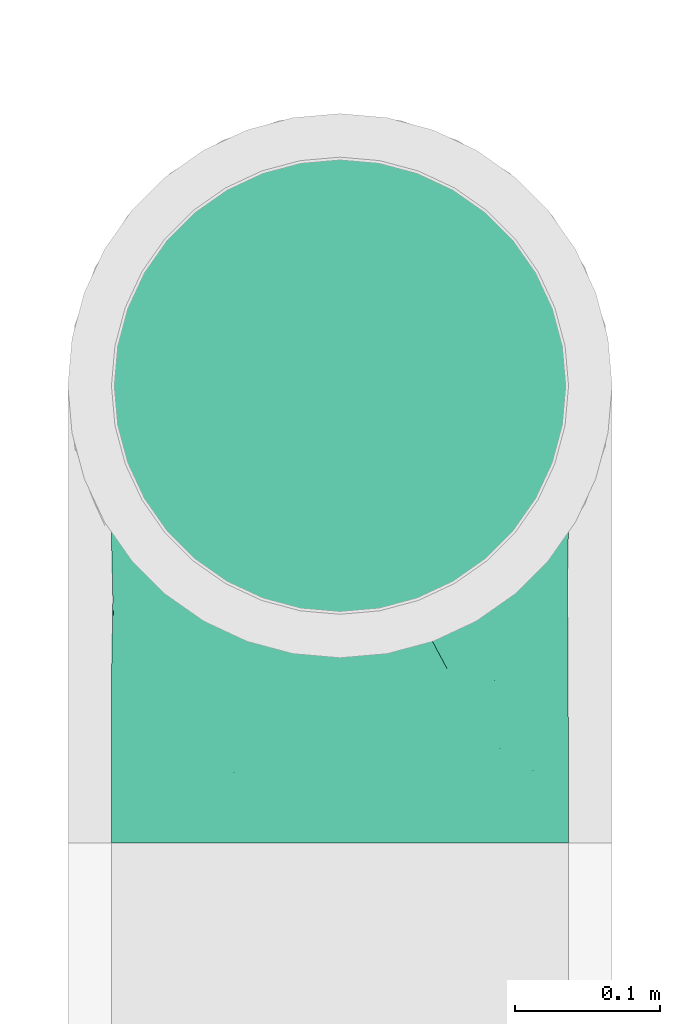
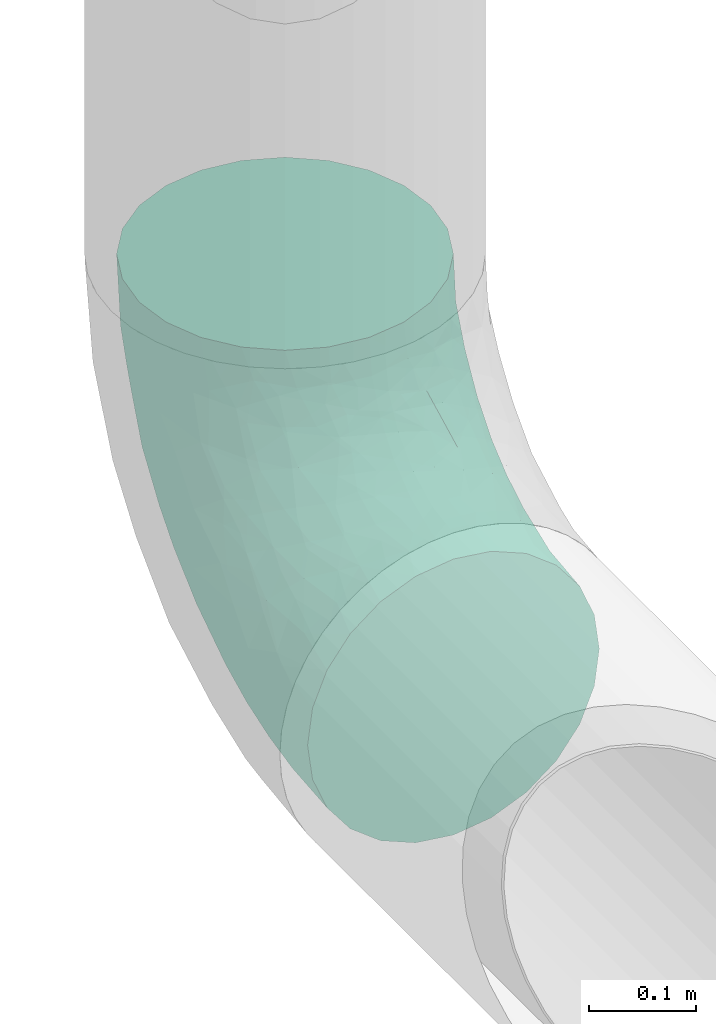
# One storey, part 16 of 21: 1 flow fitting.
"""IFC2X3 building model written with IfcOpenShell, lengths in millimetres."""

from ifc_helpers import new_model, entity, si_unit, converted_unit, derived_unit, direction, frame, origin_with_axes, place, context, subcontext, project, spatial, open_shell, surface_model, source, transform, mapped, type_object, element, save


model = new_model("IFC2X3")

# Units and contexts
model_context = context("Model", 3, precision=0.01, world=frame((0.0, 4.29681676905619e-09, 0.0)), true_north=direction((4.01073788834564e-13, 1.0)))
plan_context = context("Plan", 3, precision=0.01, world=frame((0.0, 4.29681676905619e-09, 0.0)), true_north=direction((4.01073788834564e-13, 1.0)))
body_context = subcontext(model_context, "Body", "Model", "MODEL_VIEW")
ifc_project = project(units=[converted_unit("PLANEANGLEUNIT", "DEGREE", entity("IfcPositiveLengthMeasure", 0.0174532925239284), si_unit("PLANEANGLEUNIT", "RADIAN"), dimensions=[0, 0, 0, 0, 0, 0, 0]), si_unit("AREAUNIT", "SQUARE_METRE"), si_unit("LENGTHUNIT", "METRE", prefix="MILLI"), si_unit("MASSUNIT", "GRAM", prefix="KILO"), si_unit("POWERUNIT", "WATT"), si_unit("PRESSUREUNIT", "PASCAL"), si_unit("FORCEUNIT", "NEWTON", prefix="KILO"), si_unit("ELECTRICVOLTAGEUNIT", "VOLT"), si_unit("ELECTRICCURRENTUNIT", "AMPERE"), si_unit("THERMODYNAMICTEMPERATUREUNIT", "DEGREE_CELSIUS"), si_unit("TIMEUNIT", "SECOND"), si_unit("VOLUMEUNIT", "CUBIC_METRE"), derived_unit("LINEARVELOCITYUNIT", [(si_unit("LENGTHUNIT", "METRE"), 1), (si_unit("TIMEUNIT", "SECOND"), -1)]), derived_unit("VOLUMETRICFLOWRATEUNIT", [(si_unit("VOLUMEUNIT", "CUBIC_METRE"), 1), (si_unit("TIMEUNIT", "SECOND"), -1)]), derived_unit("THERMALTRANSMITTANCEUNIT", [(si_unit("POWERUNIT", "WATT"), 1), (si_unit("THERMODYNAMICTEMPERATUREUNIT", "KELVIN"), -1), (si_unit("AREAUNIT", "SQUARE_METRE"), -1)]), derived_unit("SOUNDPRESSUREUNIT", [(si_unit("PRESSUREUNIT", "PASCAL"), 1)])], contexts=[model_context, plan_context])

# Site, building, storey
site_placement = place(None, frame((0.0, -4.29681676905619e-09, 0.0), z_axis=(0.0, 0.0, 1.0), x_axis=(1.0, 0.0, 0.0)))
site = spatial("IfcSite", under=ifc_project, at=site_placement, Name="ENGM", CompositionType="ELEMENT")
building_placement = place(site_placement, frame((0.0, 4.29681676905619e-09, 0.0), z_axis=(0.0, 0.0, 1.0), x_axis=(1.0, 0.0, 0.0)))
building = spatial("IfcBuilding", under=site, at=building_placement, Name="TI", CompositionType="ELEMENT")
storey_placement = place(building_placement, frame((0.0, 0.0, 210900.0), z_axis=(0.0, 0.0, 1.0), x_axis=(1.0, 0.0, 0.0)))
storey = spatial("IfcBuildingStorey", under=building, at=storey_placement, Name="Nivå F", CompositionType="ELEMENT", Elevation=210900.0)

# Flow fitting
duct_fitting_type = type_object("IfcDuctFittingType", Name="magicirc_elbow_full_radius_001", PredefinedType="BEND")
shared_shape = source(origin_with_axes(), body_context, "Body", "SurfaceModel", [
    surface_model("IfcShellBasedSurfaceModel", [(-315.0, 78.75, -136.39901), (-315.0, 40.764, -152.13332), (-315.0, 0.0, -157.5), (-315.0, 136.39901, -78.75), (-315.0, -40.764, -152.13332), (-315.0, 111.36932, -111.36932), (-315.0, -157.5, 0.0), (-315.0, -152.13332, 40.764), (-315.0, -111.36932, -111.36932), (-315.0, -152.13332, -40.764), (-315.0, -78.75, -136.39901), (-315.0, -136.39901, -78.75), (-315.0, 152.13332, -40.764), (-315.0, 152.13332, 40.764), (-315.0, 157.5, 0.0), (-315.0, 111.36932, 111.36932), (-315.0, 136.39901, 78.75), (-315.0, 78.75, 136.39901), (-315.0, 40.764, 152.13332), (-315.0, -111.36932, 111.36932), (-315.0, -78.75, 136.39901), (-315.0, -136.39901, 78.75), (-315.0, 0.0, 157.5), (-315.0, -40.764, 152.13332), (0.0, 315.0, -157.5), (-40.764, 315.0, -152.13332), (-78.75, 315.0, -136.39901), (-136.39901, 315.0, -78.75), (40.764, 315.0, -152.13332), (-111.36932, 315.0, -111.36932), (152.13332, 315.0, 40.764), (157.5, 315.0, 0.0), (78.75, 315.0, -136.39901), (152.13332, 315.0, -40.764), (111.36932, 315.0, -111.36932), (136.39901, 315.0, -78.75), (-152.13332, 315.0, -40.764), (-157.5, 315.0, 0.0), (-152.13332, 315.0, 40.764), (-111.36932, 315.0, 111.36932), (-136.39901, 315.0, 78.75), (-78.75, 315.0, 136.39901), (-40.764, 315.0, 152.13332), (136.39901, 315.0, 78.75), (78.75, 315.0, 136.39901), (111.36932, 315.0, 111.36932), (0.0, 315.0, 157.5), (40.764, 315.0, 152.13332), (-275.78673, -154.41385, 0.0), (-241.08472, -151.68274, 0.0), (-252.44974, -146.30358, 46.35165), (-187.41523, 212.23477, 44.18498), (-179.01149, 203.81739, 73.41005), (-160.11821, 234.12054, 71.62405), (-259.10789, -29.29167, 153.83069), (-244.91752, 10.986, 157.47118), (-224.67128, -127.46551, 78.41541), (-275.62484, -128.51884, 88.53098), (-239.58521, -68.78712, 137.8804), (-254.44946, -102.17277, 115.99392), (-204.97493, -89.72227, 117.91769), (-198.20454, -136.55993, 43.33884), (-148.94098, -119.38248, 47.89313), (-158.86886, -110.344, 75.73779), (39.78686, 15.52969, 50.216), (50.02524, 48.95167, 78.24133), (16.56876, 9.92294, 80.17525), (-156.73954, -92.78717, 99.09316), (-102.51279, -78.92253, 85.02595), (-126.30713, -72.38133, 106.65328), (-238.05749, 163.98734, 60.26168), (-237.20027, 147.2055, 88.84905), (-203.90523, 171.05831, 84.0913), (-99.39676, -101.96273, 31.06146), (-68.88048, -86.63056, 0.0), (-64.76022, -82.94549, 27.4714), (-194.76506, -28.32949, 149.7576), (24.59365, -9.6905, 28.83462), (43.18424, 9.08176, 0.0), (-28.15076, 147.0542, 156.53616), (-57.62232, 187.52251, 155.03024), (-72.61201, 106.84341, 157.43567), (-100.48949, -106.00058, 0.0), (-134.73948, -120.1874, 0.0), (-260.04347, 89.83524, 133.7152), (-237.26991, 125.02171, 112.97999), (-280.21215, 121.62894, 103.72153), (68.21928, 256.1901, 139.71452), (77.7719, 189.04071, 123.71299), (102.31809, 243.42041, 114.24978), (67.84442, 49.60938, 45.33346), (67.26053, 37.27147, 0.0), (90.55316, 77.99056, 29.40563), (-274.83669, 157.26153, 40.40661), (-274.67132, 145.30132, 71.02739), (-245.58363, 170.09727, 31.44943), (-158.01119, 282.57516, 29.57871), (-146.25125, 266.67126, 73.17914), (-201.21156, 99.95025, 140.23251), (-168.00076, 243.85557, 42.38557), (-236.25001, 178.601, 0.0), (-214.36106, 188.34463, 36.42869), (-203.63068, 203.63068, 0.0), (-162.86668, 274.236, 0.0), (-27.4795, -1.48331, 110.13927), (-51.96296, -33.03019, 100.52286), (-24.99652, -31.32094, 78.21218), (112.08788, 138.61937, 56.34637), (125.1619, 203.64453, 74.00759), (104.09929, 190.16434, 99.24634), (-263.88667, 52.46181, 150.1563), (6.28024, -18.02273, 54.59081), (-32.47692, -55.63747, 44.65165), (-205.03709, -143.02847, 0.0), (-151.50955, 215.6642, 97.49478), (-169.72394, 180.80582, 105.18325), (-137.80003, 192.65821, 121.95203), (-131.16131, 105.91152, 153.19188), (-137.52005, 135.51481, 144.53218), (-172.83727, 124.27225, 137.32768), (128.84491, 263.57392, 86.20478), (114.57644, 123.92915, 27.08781), (106.00058, 100.48949, 0.0), (131.75884, 176.48085, 38.42713), (143.02847, 205.03709, 0.0), (146.29642, 252.33829, 46.32598), (28.40156, 269.10441, 154.32704), (154.41385, 275.78673, 0.0), (-22.22564, 41.69116, 132.2609), (16.69324, 39.94323, 106.64404), (16.31975, 90.96952, 132.6244), (-52.03205, 254.37949, 150.89421), (153.88948, 315.0, 27.4246), (53.20704, 125.91085, 122.5592), (88.92651, 138.61761, 94.82216), (-274.236, 162.86668, 0.0), (-178.601, 236.25001, 0.0), (-168.81595, 14.50737, 156.32976), (-134.58592, -17.78306, 144.11351), (-96.06327, 24.61756, 149.79173), (-95.47965, 208.90923, 140.49399), (-78.67054, 72.23496, 155.69115), (-107.10628, 82.90122, 157.46314), (-89.91469, 266.26589, 132.78659), (-121.60296, 277.73788, 104.26598), (-11.78088, 260.70674, 157.34621), (-227.60537, 69.76326, 147.71238), (-195.7657, -66.84676, 132.57527), (-17.98791, 203.53807, 157.4841), (-60.53883, -60.45246, 74.88575), (-91.07399, -51.75682, 107.92189), (-197.57809, -110.08585, 94.49261), (-125.81015, 232.97235, 113.88738), (64.56465, 93.01368, 96.19249), (16.83328, 142.0015, 145.94195), (-22.72801, 90.93072, 148.21445), (-99.35511, 153.79, 150.7066), (57.69895, 213.45149, 140.44432), (29.76385, 212.9342, 151.06665), (41.25613, 174.00975, 141.99688), (81.24399, 84.86245, 65.51403), (-80.6457, -84.21175, 54.10058), (-119.42936, -101.75196, 60.63924), (-223.54613, 37.74243, 155.80439), (-168.22432, 88.17595, 150.9854), (-187.52253, 57.62232, 155.03024), (-196.7276, 148.24729, 112.17066), (-145.12836, 64.74974, 156.99994), (-62.1104, 49.45871, 148.77454), (-78.29466, 3.48913, 137.81789), (120.1874, 134.73948, 0.0), (134.3742, 168.98947, 0.0), (-124.07067, 168.52736, 138.84177), (0.02902, 171.95264, 154.42202), (-155.24181, 155.24181, 129.8968), (-73.90672, -22.7783, 121.68574), (-153.67663, -57.07317, 128.87412), (-113.78636, -39.32142, 127.49832), (-115.01886, 47.08507, 156.31037), (86.63056, 68.88048, 0.0), (-9.08176, -43.18424, 0.0), (19.10795, -19.10795, 0.0), (-168.98947, -134.3742, 0.0), (-37.27147, -67.26053, 0.0), (-315.0, -153.88948, 27.4246), (151.68274, 241.08472, 0.0), (-255.73532, 122.56558, -109.04479), (-214.29406, 93.80227, -140.10177), (-163.84149, 105.49727, -146.95596), (-183.82971, 59.98852, -154.94923), (-192.31906, 130.25635, -126.94074), (-214.67055, 186.05827, -42.62213), (-186.74496, 194.75879, -73.69482), (-239.00567, 164.73426, -57.54591), (84.53784, 80.13877, -52.6065), (-261.00954, 11.80363, -157.34285), (-250.44216, -29.83398, -153.37151), (-268.19836, 89.9699, -132.49512), (18.83806, 119.2151, -140.07242), (49.91254, 115.17721, -120.81771), (12.06978, 71.6341, -127.34592), (-248.07962, 169.80005, -27.2725), (-275.80747, 156.39383, -42.62213), (-196.40633, -137.77993, -37.15996), (-145.81166, -120.76195, -39.54807), (29.83399, 250.44214, -153.37151), (-188.19275, 214.15275, -37.45863), (-263.66616, 144.09279, -78.48806), (-189.95567, 165.06391, -102.28747), (43.89547, 65.88084, -99.75423), (78.16417, 108.21393, -90.03536), (-249.49402, 51.93128, -151.25871), (-315.0, -153.88948, -27.4246), (-247.57479, -102.2991, -114.91111), (-172.13573, -94.4716, -103.54526), (-203.64451, -125.1619, -74.00758), (-15.43872, -39.86246, -49.86848), (-49.56463, -70.60072, -36.85181), (-48.59952, -58.5205, -64.27403), (-252.33829, -146.29642, -46.32598), (-150.4225, 203.44707, -106.34238), (-263.57392, -128.84491, -86.20478), (-270.63117, -67.13499, -141.2369), (-215.39001, -68.32685, -135.04042), (102.2991, 247.57479, -114.91111), (-84.30908, -81.65653, -64.10818), (-91.06615, -97.14589, -32.77134), (94.4716, 172.13573, -103.54526), (68.32685, 215.39, -135.04042), (-163.2898, 237.20307, -62.64493), (-225.79476, 144.1207, -99.31867), (-157.79862, 273.70924, -39.50029), (-170.19986, 243.41794, -35.38905), (128.35851, 166.25059, -38.79853), (111.33052, 119.84284, -33.59532), (107.99483, 139.73378, -66.29524), (-159.64305, 170.07843, -119.54587), (-180.81821, -30.01596, -147.51371), (-145.25442, 275.15448, -70.89775), (-89.88491, 264.92544, -132.9879), (-44.17449, 280.59439, -151.79735), (-59.757, 315.0, -144.26616), (9.31111, -25.05617, -28.4426), (53.009, 25.90805, -37.46377), (-11.80362, 261.00954, -157.34285), (67.13499, 270.63117, -141.2369), (-92.6263, 92.62629, -157.49916), (-118.96141, 121.25661, -152.49801), (-64.39537, 156.51032, -156.4116), (-60.182, 62.8574, -151.37938), (-107.20835, 12.13665, -148.56572), (-115.08393, 49.61455, -156.55155), (128.84491, 263.57392, -86.20478), (142.02096, 205.05236, -27.6146), (29.81946, 180.40381, -147.52592), (-13.4149, 195.22557, -157.2133), (146.29642, 252.33829, -46.32598), (-37.40914, -4.7821, -114.20577), (-6.41858, -12.60422, -81.0379), (-50.98723, -38.43118, -94.2951), (-120.93204, -103.51151, -58.28641), (-96.41026, 201.21637, -141.79045), (-123.09172, 250.65074, -110.13461), (-121.89335, 288.06679, -101.98259), (-63.35086, 202.24527, -152.53228), (-222.08454, -6.89853, -156.21984), (125.1619, 203.64451, -74.00758), (-51.91054, 246.85668, -151.45138), (-161.36987, -115.89647, -67.15691), (61.05333, 59.83208, -73.20753), (-114.28437, -21.13487, -137.6727), (-72.08976, 0.21966, -134.09767), (2.17272, 150.10188, -151.66391), (-117.40709, -78.70988, -95.14777), (15.79609, -8.49924, -54.72897), (67.75002, 163.86592, -124.46846), (-163.86592, -67.75002, -124.46846), (-128.02491, 185.93738, -130.75264), (-108.32235, 160.67293, -146.80015), (-225.72616, 27.09586, -156.91411), (-54.59519, 105.68211, -156.33724), (-32.5663, 145.08674, -156.82141), (-145.37889, -8.42453, -149.28396), (-136.98265, 81.1657, -156.07826), (-156.31197, 39.80053, -157.47731), (-31.52679, 31.52678, -132.01846), (-143.53867, 148.20903, -138.06198), (-187.31767, 14.48755, -157.07868), (-19.17494, 108.97533, -150.78529), (2.87334, 23.19904, -105.99183), (32.99767, 23.1947, -73.77925), (-74.47057, -30.27504, -116.67674), (-115.17722, -49.91255, -120.81771), (153.88948, 315.0, -27.4246)], [open_shell([[[0, 1, 2]], [[3, 0, 2]], [[4, 3, 2]], [[5, 0, 3]], [[3, 6, 7]], [[8, 9, 10]], [[4, 10, 6]], [[11, 9, 8]], [[6, 10, 9]], [[6, 3, 4]], [[7, 12, 3]], [[13, 14, 15]], [[16, 13, 15]], [[17, 15, 7]], [[7, 15, 14]], [[17, 7, 18]], [[19, 20, 21]], [[7, 21, 22]], [[23, 22, 20]], [[21, 20, 22]], [[22, 18, 7]], [[12, 7, 14]], [[24, 25, 26]], [[24, 26, 27]], [[24, 27, 28]], [[27, 26, 29]], [[30, 31, 27]], [[32, 33, 34]], [[31, 32, 28]], [[34, 33, 35]], [[33, 32, 31]], [[28, 27, 31]], [[27, 36, 37]], [[27, 38, 39]], [[39, 38, 40]], [[30, 39, 41]], [[39, 30, 27]], [[41, 42, 30]], [[43, 44, 45]], [[46, 43, 30]], [[44, 46, 47]], [[46, 44, 43]], [[30, 42, 46]], [[38, 27, 37]], [[48, 49, 50]], [[51, 52, 53]], [[22, 54, 55]], [[56, 57, 50]], [[58, 59, 60]], [[23, 20, 58]], [[61, 62, 63]], [[64, 65, 66]], [[67, 68, 69]], [[70, 71, 72]], [[20, 59, 58]], [[73, 74, 75]], [[76, 54, 58]], [[64, 77, 78]], [[79, 80, 81]], [[50, 61, 56]], [[82, 73, 83]], [[84, 85, 86]], [[87, 88, 89]], [[22, 55, 18]], [[90, 91, 92]], [[93, 94, 70]], [[70, 95, 93]], [[96, 97, 38]], [[85, 84, 98]], [[99, 51, 53]], [[71, 70, 94]], [[100, 101, 102]], [[96, 103, 99]], [[14, 13, 93]], [[94, 93, 13]], [[64, 90, 65]], [[104, 105, 106]], [[107, 108, 109]], [[17, 110, 84]], [[111, 106, 112]], [[113, 50, 49]], [[20, 19, 59]], [[114, 115, 116]], [[117, 118, 119]], [[89, 44, 87]], [[19, 21, 57]], [[120, 89, 108]], [[121, 92, 122]], [[123, 124, 125]], [[46, 126, 47]], [[125, 127, 30]], [[16, 15, 86]], [[128, 129, 130]], [[120, 43, 45]], [[43, 125, 30]], [[123, 108, 107]], [[42, 41, 131]], [[127, 31, 132]], [[133, 134, 88]], [[93, 95, 135]], [[21, 7, 50]], [[99, 103, 136]], [[137, 138, 139]], [[102, 101, 51]], [[103, 96, 37]], [[140, 80, 131]], [[72, 101, 70]], [[51, 136, 102]], [[141, 81, 142]], [[131, 143, 140]], [[38, 97, 40]], [[39, 40, 144]], [[89, 45, 44]], [[145, 42, 131]], [[16, 94, 13]], [[41, 143, 131]], [[145, 46, 42]], [[15, 17, 84]], [[137, 55, 76]], [[23, 54, 22]], [[146, 84, 110]], [[58, 60, 147]], [[44, 47, 87]], [[88, 134, 109]], [[41, 39, 143]], [[80, 79, 148]], [[149, 150, 68]], [[67, 151, 63]], [[17, 18, 110]], [[84, 146, 98]], [[120, 125, 43]], [[125, 108, 123]], [[50, 7, 48]], [[50, 113, 61]], [[53, 52, 114]], [[144, 97, 152]], [[153, 129, 65]], [[111, 64, 66]], [[57, 59, 19]], [[60, 151, 67]], [[130, 133, 154]], [[129, 128, 104]], [[155, 154, 79]], [[156, 81, 80]], [[126, 87, 47]], [[157, 158, 159]], [[157, 88, 87]], [[160, 153, 65]], [[58, 54, 23]], [[55, 54, 76]], [[161, 162, 73]], [[162, 67, 63]], [[144, 143, 39]], [[143, 152, 140]], [[148, 131, 80]], [[126, 145, 158]], [[18, 55, 110]], [[163, 110, 55]], [[164, 98, 165]], [[98, 119, 166]], [[167, 117, 164]], [[140, 156, 80]], [[138, 137, 76]], [[168, 169, 128]], [[107, 134, 160]], [[89, 109, 108]], [[121, 123, 107]], [[170, 171, 123]], [[89, 120, 45]], [[125, 120, 108]], [[86, 94, 16]], [[94, 86, 71]], [[145, 126, 46]], [[126, 158, 157]], [[116, 140, 152]], [[118, 156, 172]], [[140, 116, 172]], [[81, 156, 117]], [[117, 167, 142]], [[81, 155, 79]], [[155, 130, 154]], [[148, 158, 145]], [[159, 88, 157]], [[173, 158, 148]], [[148, 79, 173]], [[131, 148, 145]], [[95, 70, 101]], [[14, 93, 135]], [[101, 100, 95]], [[135, 95, 100]], [[97, 144, 40]], [[143, 144, 152]], [[166, 71, 85]], [[71, 166, 72]], [[98, 166, 85]], [[166, 115, 72]], [[115, 166, 174]], [[101, 72, 52]], [[116, 115, 174]], [[52, 72, 115]], [[116, 174, 172]], [[114, 116, 152]], [[97, 114, 152]], [[52, 115, 114]], [[118, 172, 174]], [[140, 172, 156]], [[119, 118, 174]], [[156, 118, 117]], [[166, 119, 174]], [[119, 98, 164]], [[128, 130, 155]], [[153, 130, 129]], [[168, 128, 155]], [[104, 106, 66]], [[128, 169, 104]], [[162, 68, 67]], [[175, 150, 105]], [[176, 138, 76]], [[141, 155, 81]], [[139, 169, 168]], [[176, 69, 177]], [[147, 76, 58]], [[177, 150, 175]], [[138, 169, 139]], [[167, 137, 178]], [[137, 165, 163]], [[121, 122, 170]], [[126, 157, 87]], [[92, 121, 107]], [[123, 121, 170]], [[92, 107, 160]], [[90, 92, 160]], [[92, 91, 179]], [[65, 90, 160]], [[114, 97, 53]], [[160, 134, 153]], [[66, 65, 129]], [[134, 133, 153]], [[153, 133, 130]], [[104, 66, 129]], [[111, 66, 106]], [[149, 112, 106]], [[77, 64, 111]], [[161, 73, 75]], [[180, 181, 77]], [[77, 111, 112]], [[91, 90, 78]], [[77, 181, 78]], [[90, 64, 78]], [[97, 99, 53]], [[84, 86, 15]], [[86, 85, 71]], [[62, 61, 182]], [[151, 59, 56]], [[176, 60, 67]], [[59, 151, 60]], [[56, 61, 63]], [[56, 63, 151]], [[162, 63, 62]], [[62, 182, 83]], [[162, 161, 68]], [[149, 68, 161]], [[68, 150, 69]], [[62, 73, 162]], [[73, 82, 74]], [[183, 112, 75]], [[112, 149, 161]], [[149, 106, 105]], [[183, 75, 74]], [[112, 161, 75]], [[177, 69, 150]], [[176, 67, 69]], [[60, 176, 147]], [[76, 147, 176]], [[7, 184, 48]], [[184, 6, 48]], [[127, 125, 185]], [[127, 132, 30]], [[97, 96, 99]], [[37, 96, 38]], [[50, 57, 21]], [[59, 57, 56]], [[136, 51, 99]], [[101, 52, 51]], [[124, 123, 171]], [[124, 185, 125]], [[158, 173, 159]], [[154, 133, 159]], [[88, 159, 133]], [[83, 73, 62]], [[137, 163, 55]], [[146, 163, 165]], [[163, 146, 110]], [[98, 146, 165]], [[167, 164, 165]], [[119, 164, 117]], [[137, 167, 165]], [[167, 178, 142]], [[178, 139, 141]], [[117, 142, 81]], [[178, 141, 142]], [[155, 141, 168]], [[88, 109, 89]], [[107, 109, 134]], [[79, 154, 173]], [[173, 154, 159]], [[175, 104, 169]], [[149, 105, 150]], [[104, 175, 105]], [[177, 169, 138]], [[169, 177, 175]], [[138, 176, 177]], [[141, 139, 168]], [[139, 178, 137]], [[112, 180, 77]], [[179, 122, 92]], [[112, 183, 180]], [[113, 182, 61]], [[186, 5, 3]], [[187, 188, 189]], [[188, 187, 190]], [[191, 192, 193]], [[91, 194, 179]], [[2, 195, 196]], [[0, 5, 197]], [[198, 199, 200]], [[201, 202, 135]], [[182, 203, 204]], [[100, 201, 135]], [[28, 205, 24]], [[191, 102, 206]], [[12, 202, 207]], [[192, 208, 193]], [[209, 199, 210]], [[0, 211, 1]], [[197, 186, 187]], [[9, 48, 212]], [[213, 214, 215]], [[48, 6, 212]], [[216, 217, 218]], [[9, 11, 219]], [[192, 220, 208]], [[8, 221, 11]], [[191, 193, 201]], [[222, 196, 223]], [[10, 4, 222]], [[10, 222, 213]], [[113, 219, 203]], [[204, 82, 83]], [[32, 34, 224]], [[225, 217, 226]], [[8, 10, 213]], [[227, 228, 224]], [[229, 220, 192]], [[136, 206, 102]], [[186, 230, 190]], [[231, 229, 232]], [[233, 234, 235]], [[37, 36, 231]], [[208, 220, 236]], [[237, 223, 196]], [[238, 231, 36]], [[4, 2, 196]], [[239, 26, 240]], [[29, 26, 239]], [[232, 103, 231]], [[240, 241, 25]], [[78, 242, 243]], [[211, 0, 197]], [[24, 244, 25]], [[238, 36, 27]], [[24, 205, 244]], [[28, 245, 205]], [[180, 216, 242]], [[246, 247, 248]], [[14, 135, 202]], [[228, 245, 224]], [[234, 179, 194]], [[234, 194, 235]], [[249, 250, 251]], [[35, 252, 34]], [[28, 32, 245]], [[233, 253, 171]], [[205, 254, 255]], [[127, 185, 256]], [[33, 127, 256]], [[238, 229, 231]], [[230, 186, 207]], [[257, 258, 259]], [[35, 33, 256]], [[226, 260, 225]], [[218, 217, 225]], [[239, 261, 262]], [[263, 27, 29]], [[12, 207, 3]], [[264, 255, 248]], [[189, 211, 187]], [[265, 196, 195]], [[252, 224, 34]], [[227, 224, 266]], [[254, 205, 228]], [[244, 255, 267]], [[2, 1, 195]], [[196, 265, 237]], [[214, 213, 223]], [[221, 213, 215]], [[221, 219, 11]], [[268, 203, 215]], [[253, 185, 124]], [[252, 256, 266]], [[269, 210, 194]], [[227, 235, 210]], [[270, 250, 271]], [[198, 272, 254]], [[225, 273, 259]], [[274, 216, 258]], [[239, 267, 264]], [[263, 239, 262]], [[235, 227, 266]], [[275, 228, 227]], [[223, 276, 214]], [[214, 276, 273]], [[100, 102, 191]], [[202, 201, 193]], [[191, 201, 100]], [[191, 206, 192]], [[206, 229, 192]], [[229, 238, 220]], [[261, 277, 262]], [[277, 261, 278]], [[248, 247, 278]], [[190, 187, 186]], [[202, 193, 207]], [[14, 202, 12]], [[230, 193, 208]], [[3, 207, 186]], [[255, 244, 205]], [[26, 241, 240]], [[1, 211, 195]], [[279, 195, 211]], [[186, 197, 5]], [[211, 197, 187]], [[275, 254, 228]], [[199, 209, 200]], [[246, 249, 251]], [[280, 248, 281]], [[270, 282, 250]], [[237, 270, 276]], [[283, 251, 284]], [[285, 257, 271]], [[193, 230, 207]], [[230, 208, 190]], [[236, 190, 208]], [[188, 190, 286]], [[286, 247, 188]], [[284, 287, 189]], [[283, 188, 247]], [[189, 287, 279]], [[278, 247, 286]], [[283, 247, 246]], [[248, 278, 264]], [[255, 272, 281]], [[251, 283, 246]], [[189, 188, 283]], [[280, 249, 246]], [[250, 282, 284]], [[288, 285, 249]], [[249, 285, 271]], [[213, 221, 8]], [[219, 221, 215]], [[256, 252, 35]], [[224, 252, 266]], [[250, 249, 271]], [[285, 200, 289]], [[263, 238, 27]], [[220, 238, 262]], [[235, 266, 233]], [[210, 235, 194]], [[209, 269, 290]], [[210, 199, 275]], [[289, 209, 290]], [[209, 289, 200]], [[258, 289, 290]], [[257, 285, 289]], [[285, 288, 200]], [[198, 200, 288]], [[274, 258, 290]], [[218, 258, 216]], [[232, 229, 206]], [[37, 231, 103]], [[253, 266, 256]], [[233, 170, 234]], [[272, 198, 288]], [[275, 198, 254]], [[281, 272, 288]], [[255, 254, 272]], [[280, 281, 288]], [[255, 281, 248]], [[249, 280, 288]], [[248, 280, 246]], [[204, 268, 260]], [[74, 226, 217]], [[277, 278, 286]], [[278, 261, 264]], [[236, 277, 286]], [[262, 277, 220]], [[258, 257, 289]], [[122, 179, 234]], [[170, 233, 171]], [[170, 122, 234]], [[291, 257, 259]], [[291, 271, 257]], [[271, 291, 270]], [[276, 270, 292]], [[282, 270, 237]], [[237, 287, 282]], [[282, 287, 284]], [[273, 291, 259]], [[291, 292, 270]], [[266, 253, 233]], [[185, 253, 256]], [[224, 245, 32]], [[205, 245, 228]], [[196, 222, 4]], [[213, 222, 223]], [[243, 274, 290]], [[242, 216, 274]], [[243, 290, 269]], [[78, 181, 242]], [[243, 242, 274]], [[183, 217, 180]], [[242, 181, 180]], [[206, 136, 232]], [[124, 171, 253]], [[103, 232, 136]], [[113, 49, 219]], [[215, 203, 219]], [[48, 219, 49]], [[9, 219, 48]], [[293, 31, 127]], [[127, 33, 293]], [[239, 263, 29]], [[238, 263, 262]], [[226, 204, 260]], [[243, 91, 78]], [[74, 82, 226]], [[180, 217, 216]], [[74, 217, 183]], [[204, 203, 268]], [[260, 268, 273]], [[215, 214, 268]], [[273, 268, 214]], [[225, 259, 218]], [[258, 218, 259]], [[240, 244, 267]], [[244, 240, 25]], [[240, 267, 239]], [[194, 91, 243]], [[210, 275, 227]], [[275, 199, 198]], [[237, 276, 223]], [[273, 276, 292]], [[273, 292, 291]], [[260, 273, 225]], [[277, 236, 220]], [[190, 236, 286]], [[189, 279, 211]], [[265, 279, 287]], [[279, 265, 195]], [[237, 265, 287]], [[239, 264, 261]], [[255, 264, 267]], [[283, 284, 189]], [[284, 251, 250]], [[210, 269, 209]], [[243, 269, 194]], [[82, 204, 226]], [[83, 182, 204]], [[203, 182, 113]]])]),
])
flow_fitting_placement = place(storey_placement, frame((605819.77046, 697101.72271, 2446.77402000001), z_axis=(-1.0, 0.0, 0.0), x_axis=(0.0, 0.0, -1.0)))
element("IfcFlowFitting", 1, at=flow_fitting_placement, inside=storey, type_object=duct_fitting_type, Name="magicirc_elbow_full_radius_001", context=body_context, shape_type="MappedRepresentation", body=[
    mapped(shared_shape, transform((0.0, 0.0, 0.0), scale=1.0)),
])

save(model, "model.ifc")
